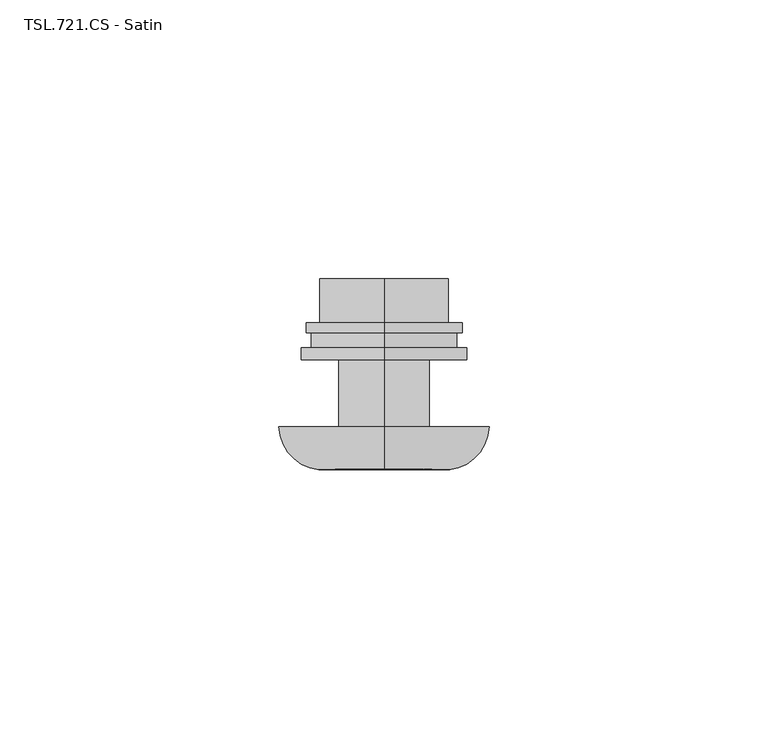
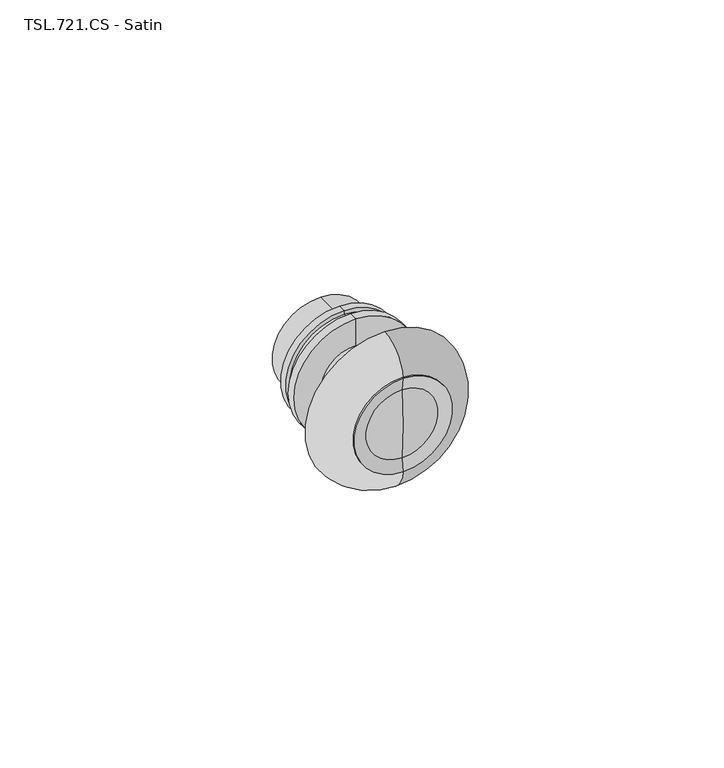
"""IFC4 building model written with IfcOpenShell, lengths in millimetres: proxy geometry, TSL_UK - TSL721 - WC Flush Valve : TSL.721.CS - Satin."""

from ifc_helpers import new_model, si_unit, point, frame, origin, place, context, project, spatial, polyline, circle_curve, ellipse_curve, trimmed, source, transform, mapped, element, save
from ifc_brep_helpers import plane_surface, cylinder_surface, revolved_surface, advanced_brep


def tsl_721_cs_satin_24e3fac1(model_context):
    return source(origin(), model_context, "Body", "AdvancedBrep", [
        advanced_brep(
        [(0.0, 0.0, 891.8764818), (0.0, 0.0, 908.1235182), (0.0, 12.0100313, 908.1235182), (0.0, 12.0100313, 891.8764818), (0.0, 0.0, 900.0), (0.0, 26.4852251, 888.4482441), (0.0, 26.4852251, 911.5517559), (0.0, 26.4852251, 900.0), (0.0, 18.6087151, 888.4482441), (0.0, 18.6087151, 911.5517559), (0.0, 18.6087151, 885.9519858), (0.0, 18.6087151, 914.0480142), (0.0, 16.7969148, 885.9519858), (0.0, 16.7969148, 914.0480142), (0.0, 16.7969148, 886.9313155), (0.0, 16.7969148, 913.0686845), (0.0, 14.1297301, 886.9313155), (0.0, 14.1297301, 913.0686845), (0.0, 14.1297301, 885.1633049), (0.0, 14.1297301, 914.8366951), (0.0, 12.0100313, 885.1633049), (0.0, 12.0100313, 914.8366951)],
        [
            (0, 1, circle_curve(frame((0.0, 0.0, 900.0), z_axis=(0.0, 1.0, 0.0), x_axis=(0.0, 0.0, 1.0)), 8.1235182)),
            (1, 2),
            (2, 3, circle_curve(frame((0.0, 12.0100313, 900.0), z_axis=(0.0, -1.0, 0.0), x_axis=(0.0, 0.0, 1.0)), 8.1235182)),
            (3, 0),
            (1, 0, circle_curve(frame((0.0, 0.0, 900.0), z_axis=(0.0, 1.0, 0.0), x_axis=(0.0, 0.0, 1.0)), 8.1235182)),
            (3, 2, circle_curve(frame((0.0, 12.0100313, 900.0), z_axis=(0.0, -1.0, 0.0), x_axis=(0.0, 0.0, 1.0)), 8.1235182)),
            (4, 1),
            (0, 4),
            (5, 6, circle_curve(frame((0.0, 26.4852251, 900.0), z_axis=(0.0, 1.0, 0.0), x_axis=(0.0, 0.0, 1.0)), 11.5517559)),
            (6, 7),
            (7, 5),
            (6, 5, circle_curve(frame((0.0, 26.4852251, 900.0), z_axis=(0.0, 1.0, 0.0), x_axis=(0.0, 0.0, 1.0)), 11.5517559)),
            (8, 9, circle_curve(frame((0.0, 18.6087151, 900.0), z_axis=(0.0, 1.0, 0.0), x_axis=(0.0, 0.0, 1.0)), 11.5517559)),
            (9, 6),
            (5, 8),
            (9, 8, circle_curve(frame((0.0, 18.6087151, 900.0), z_axis=(0.0, 1.0, 0.0), x_axis=(0.0, 0.0, 1.0)), 11.5517559)),
            (10, 11, circle_curve(frame((0.0, 18.6087151, 900.0), z_axis=(0.0, 1.0, 0.0), x_axis=(0.0, 0.0, 1.0)), 14.0480142)),
            (11, 9),
            (8, 10),
            (11, 10, circle_curve(frame((0.0, 18.6087151, 900.0), z_axis=(0.0, 1.0, 0.0), x_axis=(0.0, 0.0, 1.0)), 14.0480142)),
            (12, 13, circle_curve(frame((0.0, 16.7969148, 900.0), z_axis=(0.0, 1.0, 0.0), x_axis=(0.0, 0.0, 1.0)), 14.0480142)),
            (13, 11),
            (10, 12),
            (13, 12, circle_curve(frame((0.0, 16.7969148, 900.0), z_axis=(0.0, 1.0, 0.0), x_axis=(0.0, 0.0, 1.0)), 14.0480142)),
            (14, 15, circle_curve(frame((0.0, 16.7969148, 900.0), z_axis=(0.0, 1.0, 0.0), x_axis=(0.0, 0.0, 1.0)), 13.0686845)),
            (15, 13),
            (12, 14),
            (15, 14, circle_curve(frame((0.0, 16.7969148, 900.0), z_axis=(0.0, 1.0, 0.0), x_axis=(0.0, 0.0, 1.0)), 13.0686845)),
            (16, 17, circle_curve(frame((0.0, 14.1297301, 900.0), z_axis=(0.0, 1.0, 0.0), x_axis=(0.0, 0.0, 1.0)), 13.0686845)),
            (17, 15),
            (14, 16),
            (17, 16, circle_curve(frame((0.0, 14.1297301, 900.0), z_axis=(0.0, 1.0, 0.0), x_axis=(0.0, 0.0, 1.0)), 13.0686845)),
            (18, 19, circle_curve(frame((0.0, 14.1297301, 900.0), z_axis=(0.0, 1.0, 0.0), x_axis=(0.0, 0.0, 1.0)), 14.8366951)),
            (19, 17),
            (16, 18),
            (19, 18, circle_curve(frame((0.0, 14.1297301, 900.0), z_axis=(0.0, 1.0, 0.0), x_axis=(0.0, 0.0, 1.0)), 14.8366951)),
            (20, 21, circle_curve(frame((0.0, 12.0100313, 900.0), z_axis=(0.0, 1.0, 0.0), x_axis=(0.0, 0.0, 1.0)), 14.8366951)),
            (21, 19),
            (18, 20),
            (21, 20, circle_curve(frame((0.0, 12.0100313, 900.0), z_axis=(0.0, 1.0, 0.0), x_axis=(0.0, 0.0, 1.0)), 14.8366951)),
            (2, 21),
            (20, 3),
        ],
        [
            cylinder_surface(frame((0.0, -10.0, 900.0), z_axis=(0.0, -1.0, 0.0), x_axis=(0.0, 0.0, 1.0)), 8.1235182),
            plane_surface(frame((0.0, 0.0, 900.0), z_axis=(0.0, -1.0, 0.0), x_axis=(0.0, 0.0, 1.0))),
            plane_surface(frame((0.0, 26.4852251, 900.0), z_axis=(0.0, 1.0, 0.0), x_axis=(0.0, 0.0, 1.0))),
            cylinder_surface(frame((0.0, -10.0, 900.0), z_axis=(0.0, -1.0, 0.0), x_axis=(0.0, 0.0, 1.0)), 11.5517559),
            plane_surface(frame((0.0, 18.6087151, 900.0), z_axis=(0.0, 1.0, 0.0), x_axis=(0.0, 0.0, 1.0))),
            cylinder_surface(frame((0.0, -10.0, 900.0), z_axis=(0.0, -1.0, 0.0), x_axis=(0.0, 0.0, 1.0)), 14.0480142),
            plane_surface(frame((0.0, 16.7969148, 900.0), z_axis=(0.0, -1.0, 0.0), x_axis=(0.0, 0.0, 1.0))),
            cylinder_surface(frame((0.0, -10.0, 900.0), z_axis=(0.0, -1.0, 0.0), x_axis=(0.0, 0.0, 1.0)), 13.0686845),
            plane_surface(frame((0.0, 14.1297301, 900.0), z_axis=(0.0, 1.0, 0.0), x_axis=(0.0, 0.0, 1.0))),
            cylinder_surface(frame((0.0, -10.0, 900.0), z_axis=(0.0, -1.0, 0.0), x_axis=(0.0, 0.0, 1.0)), 14.8366951),
            plane_surface(frame((0.0, 12.0100313, 900.0), z_axis=(0.0, -1.0, 0.0), x_axis=(0.0, 0.0, 1.0))),
        ],
        [
            (0, [[1, 2, 3, 4]]),
            (0, [[5, -4, 6, -2]]),
            (1, [[7, -1, 8]]),
            (1, [[-8, -5, -7]]),
            (2, [[9, 10, 11]]),
            (2, [[12, -11, -10]]),
            (3, [[13, 14, -9, 15]]),
            (3, [[16, -15, -12, -14]]),
            (4, [[17, 18, -13, 19]]),
            (4, [[20, -19, -16, -18]]),
            (5, [[21, 22, -17, 23]]),
            (5, [[24, -23, -20, -22]]),
            (6, [[25, 26, -21, 27]]),
            (6, [[28, -27, -24, -26]]),
            (7, [[29, 30, -25, 31]]),
            (7, [[32, -31, -28, -30]]),
            (8, [[33, 34, -29, 35]]),
            (8, [[36, -35, -32, -34]]),
            (9, [[37, 38, -33, 39]]),
            (9, [[40, -39, -36, -38]]),
            (10, [[-3, 41, -37, 42]]),
            (10, [[-6, -42, -40, -41]]),
        ],
    ),
        advanced_brep(
        [(0.0, -7.7132153, 900.0), (0.0, -7.2059406, 908.5619132), (0.0, -7.2059406, 891.4380868), (0.0, 0.0, 888.2352804), (0.0, 0.0, 911.7647196), (0.0, 0.0, 900.0), (0.0, -7.7132153, 888.2352804), (0.0, -7.7132153, 911.7647196)],
        [
            (0, 1, circle_curve(frame((0.0, 64.795513, 900.0), z_axis=(-1.0, 0.0, 0.0), x_axis=(0.0, 1.0, 0.0)), 72.5087283)),
            (1, 2, circle_curve(frame((0.0, -7.2059406, 900.0), z_axis=(0.0, -1.0, 0.0), x_axis=(0.0, 0.0, 1.0)), 8.5619132)),
            (2, 0, circle_curve(frame((0.0, 64.795513, 900.0), z_axis=(-1.0, 0.0, 0.0), x_axis=(0.0, 1.0, 0.0)), 72.5087283)),
            (2, 1, circle_curve(frame((0.0, -7.2059406, 900.0), z_axis=(0.0, -1.0, 0.0), x_axis=(0.0, 0.0, 1.0)), 8.5619132)),
            (3, 4, circle_curve(frame((0.0, 0.0, 900.0), z_axis=(0.0, 1.0, 0.0), x_axis=(0.0, 0.0, 1.0)), 11.7647196)),
            (4, 5),
            (5, 3),
            (4, 3, circle_curve(frame((0.0, 0.0, 900.0), z_axis=(0.0, 1.0, 0.0), x_axis=(0.0, 0.0, 1.0)), 11.7647196)),
            (6, 7, circle_curve(frame((0.0, -7.7132153, 900.0), z_axis=(0.0, 1.0, 0.0), x_axis=(0.0, 0.0, 1.0)), 11.7647196)),
            (7, 4),
            (3, 6),
            (7, 6, circle_curve(frame((0.0, -7.7132153, 900.0), z_axis=(0.0, 1.0, 0.0), x_axis=(0.0, 0.0, 1.0)), 11.7647196)),
            (1, 7),
            (6, 2),
        ],
        [
            revolved_surface(trimmed(ellipse_curve(frame((0.0, 64.795513, 900.0), z_axis=(1.0, 0.0, 0.0), x_axis=(0.0, 1.0, 0.0)), 72.5087283, 72.5087283), [point((0.0, -7.2059406, 908.5619132))], [point((0.0, -7.7132153, 900.0))], True, "CARTESIAN"), (0.0, -12.0992661, 900.0), (0.0, -1.0, 0.0)),
            plane_surface(frame((0.0, 0.0, 900.0), z_axis=(0.0, 1.0, 0.0), x_axis=(0.0, 0.0, 1.0))),
            cylinder_surface(frame((0.0, -12.0992661, 900.0), z_axis=(0.0, -1.0, 0.0), x_axis=(0.0, 0.0, 1.0)), 11.7647196),
            revolved_surface(polyline([(0.0, -7.7132153, 911.7647196), (0.0, -7.2059406, 908.5619132)]), (0.0, -12.0992661, 900.0), (0.0, -1.0, 0.0)),
        ],
        [
            (0, [[1, 2, 3]]),
            (0, [[-3, 4, -1]]),
            (1, [[5, 6, 7]]),
            (1, [[8, -7, -6]]),
            (2, [[9, 10, -5, 11]]),
            (2, [[12, -11, -8, -10]]),
            (3, [[-2, 13, -9, 14]]),
            (3, [[-4, -14, -12, -13]]),
        ],
    ),
        advanced_brep(
        [(0.0, 0.0, 881.0539975), (0.0, 0.0, 918.9460025), (0.0, 0.0, 911.7647196), (0.0, 0.0, 888.2352804), (0.0, -7.7132153, 888.2352804), (0.0, -7.7132153, 911.7647196)],
        [
            (0, 1, circle_curve(frame((0.0, 0.0, 900.0), z_axis=(0.0, 1.0, 0.0), x_axis=(0.0, 0.0, 1.0)), 18.9460025)),
            (1, 2),
            (2, 3, circle_curve(frame((0.0, 0.0, 900.0), z_axis=(0.0, -1.0, 0.0), x_axis=(0.0, 0.0, 1.0)), 11.7647196)),
            (3, 0),
            (1, 0, circle_curve(frame((0.0, 0.0, 900.0), z_axis=(0.0, 1.0, 0.0), x_axis=(0.0, 0.0, 1.0)), 18.9460025)),
            (3, 2, circle_curve(frame((0.0, 0.0, 900.0), z_axis=(0.0, -1.0, 0.0), x_axis=(0.0, 0.0, 1.0)), 11.7647196)),
            (4, 5, circle_curve(frame((0.0, -7.7132153, 900.0), z_axis=(0.0, 1.0, 0.0), x_axis=(0.0, 0.0, 1.0)), 11.7647196)),
            (5, 1, circle_curve(frame((0.0, 0.2581052, 910.9358629), z_axis=(-1.0, 0.0, 0.0), x_axis=(0.0, 1.0, 0.0)), 8.0142969)),
            (0, 4, circle_curve(frame((0.0, 0.2581052, 889.0641371), z_axis=(-1.0, 0.0, 0.0), x_axis=(0.0, 1.0, 0.0)), 8.0142969)),
            (5, 4, circle_curve(frame((0.0, -7.7132153, 900.0), z_axis=(0.0, 1.0, 0.0), x_axis=(0.0, 0.0, 1.0)), 11.7647196)),
            (2, 5),
            (4, 3),
        ],
        [
            plane_surface(frame((0.0, 0.0, 900.0), z_axis=(0.0, 1.0, 0.0), x_axis=(0.0, 0.0, 1.0))),
            revolved_surface(trimmed(ellipse_curve(frame((0.0, 0.2581052, 910.9358629), z_axis=(1.0, 0.0, 0.0), x_axis=(0.0, 1.0, 0.0)), 8.0142969, 8.0142969), [point((0.0, 0.0, 918.9460025))], [point((0.0, -7.7132153, 911.7647196))], True, "CARTESIAN"), (0.0, 5.0, 900.0), (0.0, -1.0, 0.0)),
            revolved_surface(polyline([(0.0, -7.7132153, 911.7647196), (0.0, 0.0, 911.7647196)]), (0.0, 5.0, 900.0), (0.0, -1.0, 0.0)),
        ],
        [
            (0, [[1, 2, 3, 4]]),
            (0, [[5, -4, 6, -2]]),
            (1, [[7, 8, -1, 9]]),
            (1, [[10, -9, -5, -8]]),
            (2, [[-3, 11, -7, 12]]),
            (2, [[-6, -12, -10, -11]]),
        ],
    ),
    ])


if __name__ == "__main__":
    model = new_model("IFC4")
    model_context = context("Model", 3, world=origin())
    ifc_project = project(units=[si_unit("LENGTHUNIT", "METRE", prefix="MILLI")], contexts=[model_context])
    site = spatial("IfcSite", under=ifc_project)
    building = spatial("IfcBuilding", under=site)
    placement = place(None, origin())
    tsl_721_cs_satin_shape = tsl_721_cs_satin_24e3fac1(model_context)
    element("IfcBuildingElementProxy", 1, Name="TSL_UK - TSL721 - WC Flush Valve : TSL.721.CS - Satin", ObjectType="TSL_UK - TSL721 - WC Flush Valve : TSL.721.CS - Satin", at=placement, inside=building, context=model_context, shape_type="MappedRepresentation", body=[
        mapped(tsl_721_cs_satin_shape, transform((0.0, 0.0, 0.0), x_axis=(1.0, 0.0, 0.0), y_axis=(0.0, 1.0, 0.0), z_axis=(0.0, 0.0, 1.0))),
    ])
    save(model, "model.ifc")
